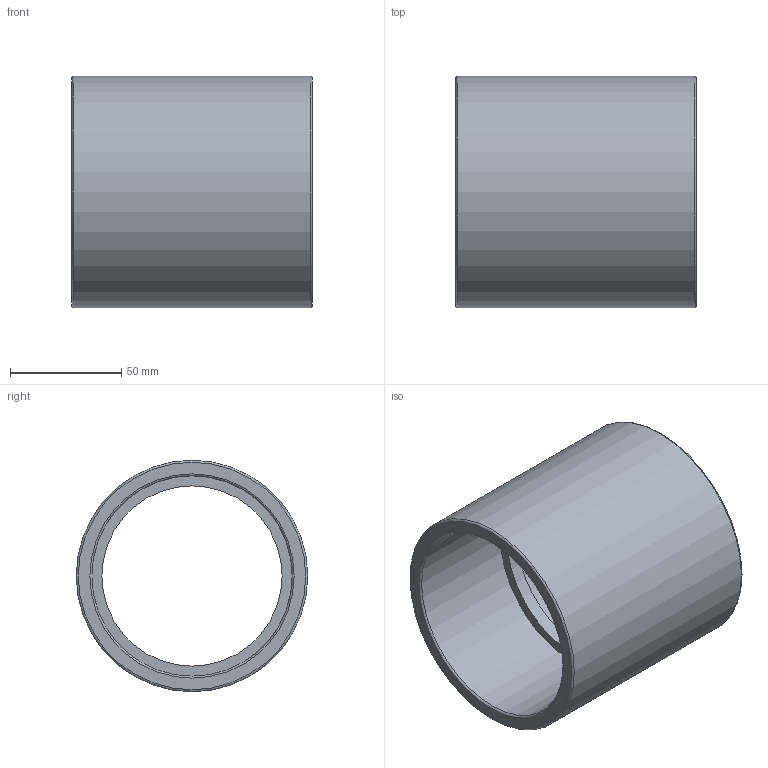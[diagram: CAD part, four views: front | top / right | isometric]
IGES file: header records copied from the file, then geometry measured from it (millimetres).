
Global section: file name: 050100090.ipt; native system: Autodesk Inventor 2015; preprocessor: unknown; author: KIM; date: 20171207.164014; units: millimetre
Bounding box: 108 x 104 x 104 mm (x, y, z)
Volume: 237419.8 mm3; surface area: 71865.9 mm2
Topology: 1 solids, 1 shells, 12 faces, 34 edges, 26 vertices
Faces by surface type: revolution 7, plane 4, cylinder 1
Full cylindrical faces by diameter (mm): 104 x1
